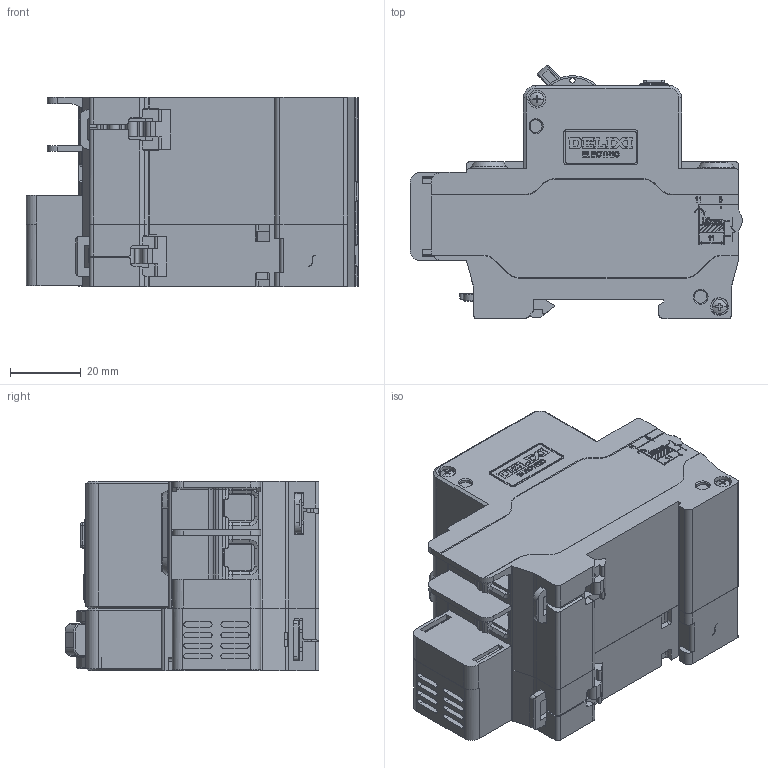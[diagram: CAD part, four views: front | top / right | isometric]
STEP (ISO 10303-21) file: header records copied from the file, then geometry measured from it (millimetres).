
FILE_DESCRIPTION((''),'2;1');
FILE_NAME('CDBHLE_1PN_63_2250005_SW0001','2019-12-21T',('dong.huang'),(''),'PRO/ENGINEER BY PARAMETRIC TECHNOLOGY CORPORATION, 2015440','PRO/ENGINEER BY PARAMETRIC TECHNOLOGY CORPORATION, 2015440','');
FILE_SCHEMA(('CONFIG_CONTROL_DESIGN'));
Products named in the file (1): CDBHLE_1PN_63_2250005_SW0001
Bounding box: 94 x 71.86 x 53.65 mm (x, y, z)
Volume: 209162.9 mm3; surface area: 58542.9 mm2
Topology: 2 solids, 3 shells, 5410 faces, 15159 edges, 9891 vertices
Faces by surface type: plane 3616, cylinder 1040, extrusion 433, cone 158, torus 77, sphere 63, bspline 23
Entity records: 176667 total; most frequent: CARTESIAN_POINT 37568, ORIENTED_EDGE 30192, DIRECTION 26795, EDGE_CURVE 15096, VECTOR 11757, LINE 11324, VERTEX_POINT 9891, AXIS2_PLACEMENT_3D 7519
